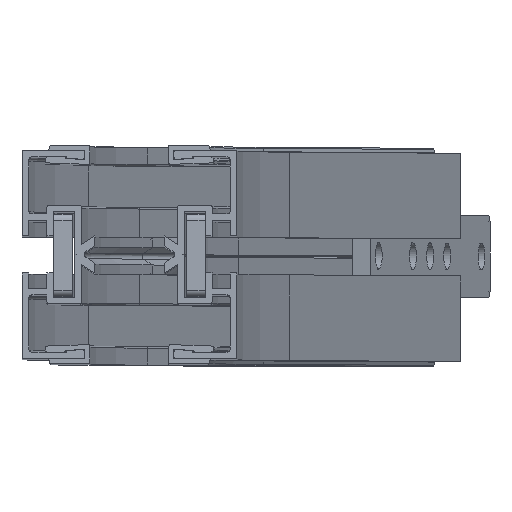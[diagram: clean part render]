
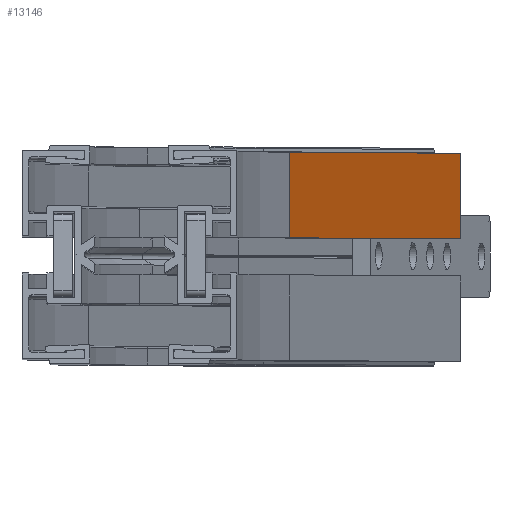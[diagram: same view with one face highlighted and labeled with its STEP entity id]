
A CAD part, top view. The second image highlights one B-rep face of the part: STEP entity #13146.
In plain terms, the highlighted planar face has unit normal (0.966, 0, 0.259) as drawn and (-0.259, 0, 0.966) by its records, which use the part's own axes.
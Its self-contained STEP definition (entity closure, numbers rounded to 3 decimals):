
#749 = FACE_OUTER_BOUND ( 'NONE', #1795, .T. ) ;
#1795 = EDGE_LOOP ( 'NONE', ( #2507, #2506, #2510, #2528 ) ) ;
#2506 = ORIENTED_EDGE ( 'NONE', *, *, #3461, .F. ) ;
#2507 = ORIENTED_EDGE ( 'NONE', *, *, #3460, .T. ) ;
#2510 = ORIENTED_EDGE ( 'NONE', *, *, #3462, .F. ) ;
#2528 = ORIENTED_EDGE ( 'NONE', *, *, #3458, .T. ) ;
#3458 = EDGE_CURVE ( 'NONE', #15440, #15406, #13567, .T. ) ;
#3460 = EDGE_CURVE ( 'NONE', #15406, #15441, #13571, .T. ) ;
#3461 = EDGE_CURVE ( 'NONE', #15439, #15441, #13573, .T. ) ;
#3462 = EDGE_CURVE ( 'NONE', #15440, #15439, #13569, .T. ) ;
#6816 = CARTESIAN_POINT ( 'NONE',  ( 320.998, 63., 48.43 ) ) ;
#6849 = CARTESIAN_POINT ( 'NONE',  ( 514.183, 37.1, 100.193 ) ) ;
#6850 = CARTESIAN_POINT ( 'NONE',  ( 514.183, 63., 100.193 ) ) ;
#6851 = CARTESIAN_POINT ( 'NONE',  ( 320.998, 37.1, 48.43 ) ) ;
#9670 = CARTESIAN_POINT ( 'NONE',  ( 514.183, 63., 100.193 ) ) ;
#9675 = CARTESIAN_POINT ( 'NONE',  ( 514.183, 63., 100.193 ) ) ;
#9677 = DIRECTION ( 'NONE',  ( -0.966, 0., -0.259 ) ) ;
#9679 = CARTESIAN_POINT ( 'NONE',  ( 320.998, 63., 48.43 ) ) ;
#9680 = DIRECTION ( 'NONE',  ( 0., -1., 0. ) ) ;
#9681 = CARTESIAN_POINT ( 'NONE',  ( 514.183, 37.1, 100.193 ) ) ;
#9683 = DIRECTION ( 'NONE',  ( -0.966, 0., -0.259 ) ) ;
#9684 = DIRECTION ( 'NONE',  ( 0., -1., 0. ) ) ;
#11413 = AXIS2_PLACEMENT_3D ( 'NONE', #12126, #12127, #12128 ) ;
#12125 = PLANE ( 'NONE',  #11413 ) ;
#12126 = CARTESIAN_POINT ( 'NONE',  ( 514.183, 63., 100.193 ) ) ;
#12127 = DIRECTION ( 'NONE',  ( 0.259, 0., -0.966 ) ) ;
#12128 = DIRECTION ( 'NONE',  ( -0.966, 0., -0.259 ) ) ;
#13146 = ADVANCED_FACE ( 'NONE', ( #749 ), #12125, .F. ) ;
#13567 = LINE ( 'NONE', #9675, #13570 ) ;
#13569 = LINE ( 'NONE', #9670, #13578 ) ;
#13570 = VECTOR ( 'NONE', #9677, 1000. ) ;
#13571 = LINE ( 'NONE', #9679, #13574 ) ;
#13573 = LINE ( 'NONE', #9681, #13576 ) ;
#13574 = VECTOR ( 'NONE', #9680, 1000. ) ;
#13576 = VECTOR ( 'NONE', #9683, 1000. ) ;
#13578 = VECTOR ( 'NONE', #9684, 1000. ) ;
#15406 = VERTEX_POINT ( 'NONE', #6816 ) ;
#15439 = VERTEX_POINT ( 'NONE', #6849 ) ;
#15440 = VERTEX_POINT ( 'NONE', #6850 ) ;
#15441 = VERTEX_POINT ( 'NONE', #6851 ) ;
